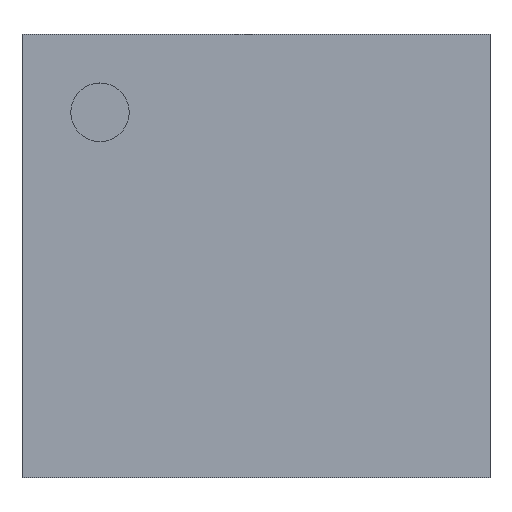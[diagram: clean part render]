
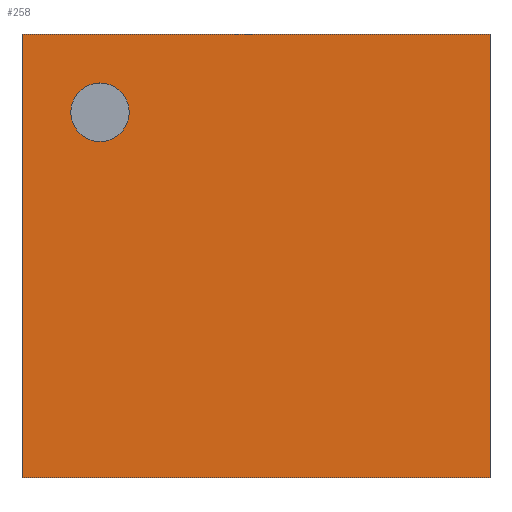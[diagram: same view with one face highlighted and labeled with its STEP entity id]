
A CAD part, top view. The second image highlights one B-rep face of the part: STEP entity #258.
In plain terms, the highlighted planar face has unit normal (0, 0, 1).
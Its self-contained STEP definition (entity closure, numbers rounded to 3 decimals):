
#194 = VERTEX_POINT('',#195);
#195 = CARTESIAN_POINT('',(0.,0.,0.5));
#210 = VERTEX_POINT('',#211);
#211 = CARTESIAN_POINT('',(0.,1.98,0.5));
#217 = EDGE_CURVE('',#194,#210,#218,.T.);
#218 = LINE('',#219,#220);
#219 = CARTESIAN_POINT('',(0.,0.,0.5));
#220 = VECTOR('',#221,1.);
#221 = DIRECTION('',(0.,1.,0.));
#240 = EDGE_CURVE('',#194,#241,#243,.T.);
#241 = VERTEX_POINT('',#242);
#242 = CARTESIAN_POINT('',(2.09,0.,0.5));
#243 = LINE('',#244,#245);
#244 = CARTESIAN_POINT('',(0.,0.,0.5));
#245 = VECTOR('',#246,1.);
#246 = DIRECTION('',(1.,0.,0.));
#258 = ADVANCED_FACE('',(#259,#277),#288,.T.);
#259 = FACE_BOUND('',#260,.T.);
#260 = EDGE_LOOP('',(#261,#262,#263,#271));
#261 = ORIENTED_EDGE('',*,*,#217,.F.);
#262 = ORIENTED_EDGE('',*,*,#240,.T.);
#263 = ORIENTED_EDGE('',*,*,#264,.T.);
#264 = EDGE_CURVE('',#241,#265,#267,.T.);
#265 = VERTEX_POINT('',#266);
#266 = CARTESIAN_POINT('',(2.09,1.98,0.5));
#267 = LINE('',#268,#269);
#268 = CARTESIAN_POINT('',(2.09,0.,0.5));
#269 = VECTOR('',#270,1.);
#270 = DIRECTION('',(0.,1.,0.));
#271 = ORIENTED_EDGE('',*,*,#272,.F.);
#272 = EDGE_CURVE('',#210,#265,#273,.T.);
#273 = LINE('',#274,#275);
#274 = CARTESIAN_POINT('',(0.,1.98,0.5));
#275 = VECTOR('',#276,1.);
#276 = DIRECTION('',(1.,0.,0.));
#277 = FACE_BOUND('',#278,.T.);
#278 = EDGE_LOOP('',(#279));
#279 = ORIENTED_EDGE('',*,*,#280,.F.);
#280 = EDGE_CURVE('',#281,#281,#283,.T.);
#281 = VERTEX_POINT('',#282);
#282 = CARTESIAN_POINT('',(0.479,1.632,0.5));
#283 = CIRCLE('',#284,0.131);
#284 = AXIS2_PLACEMENT_3D('',#285,#286,#287);
#285 = CARTESIAN_POINT('',(0.348,1.632,0.5));
#286 = DIRECTION('',(0.,0.,1.));
#287 = DIRECTION('',(1.,0.,0.));
#288 = PLANE('',#289);
#289 = AXIS2_PLACEMENT_3D('',#290,#291,#292);
#290 = CARTESIAN_POINT('',(0.,0.,0.5));
#291 = DIRECTION('',(0.,0.,1.));
#292 = DIRECTION('',(1.,0.,0.));
